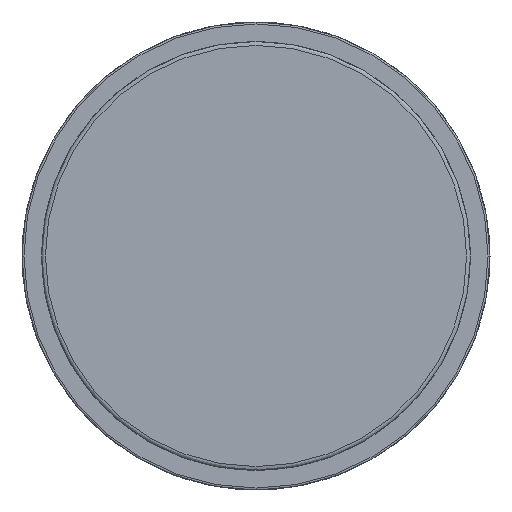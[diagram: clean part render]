
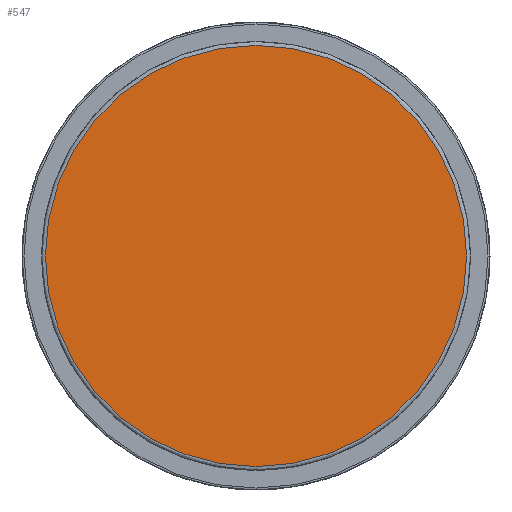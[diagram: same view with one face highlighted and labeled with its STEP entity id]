
A CAD part, left-side view. The second image highlights one B-rep face of the part: STEP entity #547.
In plain terms, the highlighted planar face has unit normal (-1, 0, 0).
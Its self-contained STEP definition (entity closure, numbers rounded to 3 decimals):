
#522=CARTESIAN_POINT('',(-528.136,-554.11,66.));
#523=DIRECTION('',(-1.0,0.0,0.0));
#524=DIRECTION('',(0.0,1.0,0.0));
#525=AXIS2_PLACEMENT_3D('',#522,#523,#524);
#526=PLANE('',#525);
#527=CARTESIAN_POINT('',(-528.136,-434.109,0.));
#528=VERTEX_POINT('',#527);
#529=CARTESIAN_POINT('',(-528.136,-542.109,0.));
#530=VERTEX_POINT('',#529);
#531=CARTESIAN_POINT('',(-528.136,-488.109,0.));
#532=DIRECTION('',(-1.0,0.0,0.0));
#533=DIRECTION('',(0.0,1.0,0.0));
#534=AXIS2_PLACEMENT_3D('',#531,#532,#533);
#535=CIRCLE('',#534,54.0);
#536=EDGE_CURVE('',#528,#530,#535,.T.);
#537=ORIENTED_EDGE('',*,*,#536,.T.);
#538=CARTESIAN_POINT('',(-528.136,-488.109,0.));
#539=DIRECTION('',(-1.0,0.0,0.0));
#540=DIRECTION('',(0.0,1.0,0.0));
#541=AXIS2_PLACEMENT_3D('',#538,#539,#540);
#542=CIRCLE('',#541,54.0);
#543=EDGE_CURVE('',#530,#528,#542,.T.);
#544=ORIENTED_EDGE('',*,*,#543,.T.);
#545=EDGE_LOOP('',(#537,#544));
#546=FACE_OUTER_BOUND('',#545,.T.);
#547=ADVANCED_FACE('',(#546),#526,.T.);
